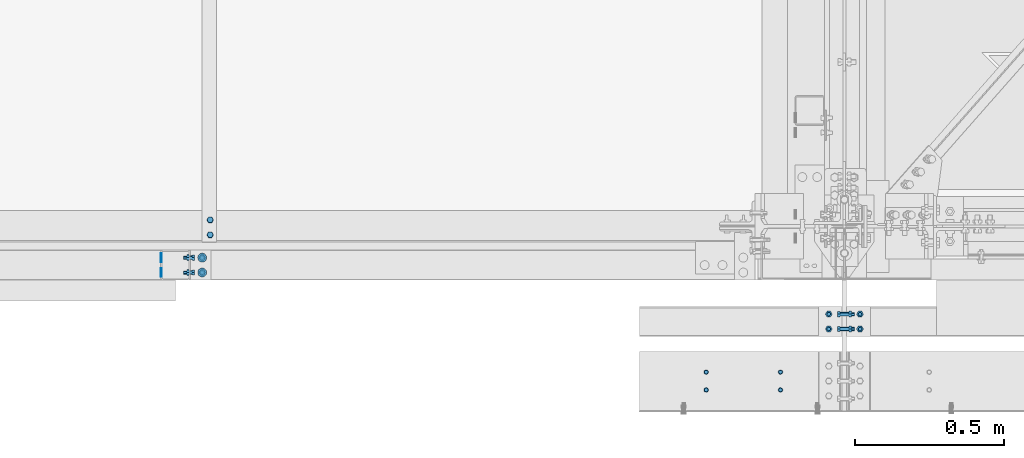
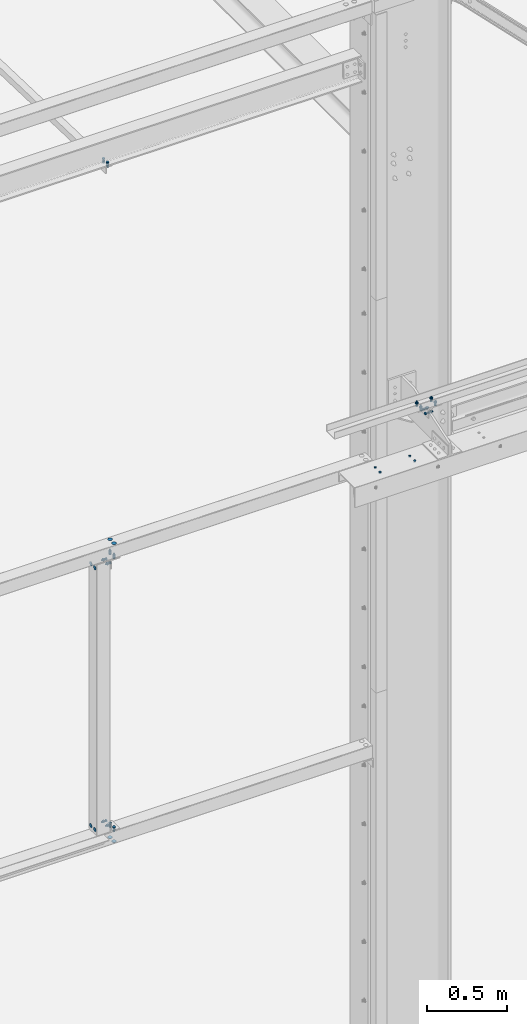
# One storey, part 217 of 362: 14 mechanical fasteners.
"""IFC2X3 building model written with IfcOpenShell, lengths in millimetres."""

from ifc_helpers import new_model, si_unit, frame, origin_with_axes, origin_2d_with_axis, place, context, subcontext, project, spatial, polyline, circle, outline, extrude, source, transform, mapped, material, type_object, element, save


model = new_model("IFC2X3")

# Units and contexts
model_context = context("Model", 3, precision=1e-05, world=origin_with_axes())
body_context = subcontext(model_context, "Body", "Model", "MODEL_VIEW")
ifc_project = project(units=[si_unit("LENGTHUNIT", "METRE", prefix="MILLI"), si_unit("AREAUNIT", "SQUARE_METRE"), si_unit("VOLUMEUNIT", "CUBIC_METRE"), si_unit("MASSUNIT", "GRAM", prefix="KILO"), si_unit("TIMEUNIT", "SECOND"), si_unit("PLANEANGLEUNIT", "RADIAN"), si_unit("SOLIDANGLEUNIT", "STERADIAN"), si_unit("THERMODYNAMICTEMPERATUREUNIT", "DEGREE_CELSIUS"), si_unit("LUMINOUSINTENSITYUNIT", "LUMEN")], contexts=[model_context])

# Site, building, storey
site_placement = place(None, origin_with_axes())
site = spatial("IfcSite", under=ifc_project, at=site_placement, Name="Undefined", CompositionType="ELEMENT")
building_placement = place(site_placement, origin_with_axes())
building = spatial("IfcBuilding", under=site, at=building_placement, Name="Undefined", CompositionType="ELEMENT")
storey_placement = place(building_placement, origin_with_axes())
storey = spatial("IfcBuildingStorey", under=building, at=storey_placement, Name="Undefined", CompositionType="ELEMENT", Elevation=0.0)

# Mechanical fasteners
ifc_material_1 = material(Name="8.8-SB-ZINGUE")
mechanical_fastener_type = type_object("IfcMechanicalFastenerType", Name="Bolt assembly")
shared_shape_1 = source(origin_with_axes(), body_context, "Body", "SweptSolid", [
    extrude(circle(Radius=7.0, at=origin_2d_with_axis()), frame((0.0, -8.5, 0.0), z_axis=(0.0, 1.0, 0.0), x_axis=(1.0, 0.0, 0.0)), (0.0, 0.0, 1.0), 8.6),
])
for number, where, z_axis, x_axis, name in (
    (1, (12464.9989211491, -490.0, 5229.99824538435), (-1.0, 0.0, 0.0), (0.0, -1.0, 0.0), "Bolt assembly"),
    (2, (12214.9989211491, -490.0, 5229.99824538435), (-1.0, 0.0, 0.0), (0.0, -1.0, 0.0), "Bolt assembly"),
):
    element("IfcMechanicalFastener", number, at=place(storey_placement, frame(where, z_axis=z_axis, x_axis=x_axis)), inside=storey, type_object=mechanical_fastener_type, material=ifc_material_1, Name=name, NominalDiameter=12.0, NominalLength=8.5, context=body_context, shape_type="MappedRepresentation", body=[
        mapped(shared_shape_1, transform((0.0, 0.0, 0.0))),
        mapped(shared_shape_1, transform((60.0, 0.0, 0.0))),
    ])
shared_shape_2 = source(origin_with_axes(), body_context, "Body", "SweptSolid", [
    extrude(circle(Radius=7.0, at=origin_2d_with_axis()), frame((0.0, -7.5, 0.0), z_axis=(0.0, 1.0, 0.0), x_axis=(1.0, 0.0, 0.0)), (0.0, 0.0, 1.0), 15.0),
    extrude(circle(Radius=7.0, at=origin_2d_with_axis()), frame((0.0, -15.4, 0.0), z_axis=(0.0, 1.0, 0.0), x_axis=(1.0, 0.0, 0.0)), (0.0, 0.0, 1.0), 8.0),
    extrude(circle(Radius=7.0, at=origin_2d_with_axis()), frame((0.0, 7.39216762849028, 0.0), z_axis=(0.0, 1.0, 0.0), x_axis=(1.0, 0.0, 0.0)), (0.0, 0.0, 1.0), 8.1),
    extrude(outline(polyline([(10.39230484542, 0.0), (5.19615242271, 9.00000000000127), (-5.19615242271, 9.00000000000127), (-10.39230484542, 0.0), (-5.19615242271, -9.00000000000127), (5.19615242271, -9.00000000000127), (10.39230484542, 0.0)])), frame((0.0, -23.42, 0.0), z_axis=(0.0, 1.0, 0.0), x_axis=(1.0, 0.0, 0.0)), (0.0, 0.0, 1.0), 7.92),
    extrude(circle(Radius=6.0, at=origin_2d_with_axis()), frame((0.0, -15.5, 0.0), z_axis=(0.0, 1.0, 0.0), x_axis=(1.0, 0.0, 0.0)), (0.0, 0.0, 1.0), 50.0),
    extrude(outline(polyline([(11.5008173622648, 0.0), (5.7504086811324, 9.96000000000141), (-5.7504086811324, 9.96000000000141), (-11.5008173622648, 0.0), (-5.7504086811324, -9.96000000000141), (5.7504086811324, -9.96000000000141), (11.5008173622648, 0.0)])), frame((0.0, 15.4921676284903, 0.0), z_axis=(0.0, 1.0, 0.0), x_axis=(1.0, 0.0, 0.0)), (0.0, 0.0, 1.0), 7.92),
])
mechanical_fastener_1_placement = place(storey_placement, frame((12680.0, -320.0, 5394.99824538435), z_axis=(0.0, 1.0, 0.0), x_axis=(0.0, 0.0, 1.0)))
element("IfcMechanicalFastener", 3, at=mechanical_fastener_1_placement, inside=storey, type_object=mechanical_fastener_type, material=ifc_material_1, Name="Bolt assembly", NominalDiameter=12.0, NominalLength=50.0, context=body_context, shape_type="MappedRepresentation", body=[
    mapped(shared_shape_2, transform((0.0, 0.0, -25.0))),
    mapped(shared_shape_2, transform((0.0, 0.0, 25.0))),
])
shared_shape_3 = source(origin_with_axes(), body_context, "Body", "SweptSolid", [
    extrude(circle(Radius=7.0, at=origin_2d_with_axis()), frame((0.0, -0.100011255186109, 0.0), z_axis=(0.0, 1.0, 0.0), x_axis=(1.0, 0.0, 0.0)), (0.0, 0.0, 1.0), 4.1),
    extrude(circle(Radius=7.0, at=origin_2d_with_axis()), frame((0.0, -7.9, 0.0), z_axis=(0.0, 1.0, 0.0), x_axis=(1.0, 0.0, 0.0)), (0.0, 0.0, 1.0), 8.0),
    extrude(outline(polyline([(10.39230484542, 0.0), (5.19615242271, 9.00000000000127), (-5.19615242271, 9.00000000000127), (-10.39230484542, 0.0), (-5.19615242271, -9.00000000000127), (5.19615242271, -9.00000000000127), (10.39230484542, 0.0)])), frame((0.0, -15.92, 0.0), z_axis=(0.0, 1.0, 0.0), x_axis=(1.0, 0.0, 0.0)), (0.0, 0.0, 1.0), 7.92),
    extrude(circle(Radius=6.0, at=origin_2d_with_axis()), frame((0.0, -8.0, 0.0), z_axis=(0.0, 1.0, 0.0), x_axis=(1.0, 0.0, 0.0)), (0.0, 0.0, 1.0), 30.0),
    extrude(outline(polyline([(11.5008173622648, 0.0), (5.7504086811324, 9.96000000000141), (-5.7504086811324, 9.96000000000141), (-11.5008173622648, 0.0), (-5.7504086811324, -9.96000000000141), (5.7504086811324, -9.96000000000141), (11.5008173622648, 0.0)])), frame((0.0, 4.00000005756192, 0.0), z_axis=(0.0, 1.0, 0.0), x_axis=(1.0, 0.0, 0.0)), (0.0, 0.0, 1.0), 7.92),
])
for number, where, z_axis, x_axis, name in (
    (4, (12732.4921676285, -320.0, 5449.99824532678), (0.0, 1.0, 0.0), (-1.0, 0.0, 0.0), "Bolt assembly"),
    (5, (12627.5, -320.0, 5449.99824532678), (0.0, -1.0, 0.0), (1.0, 0.0, 0.0), "Bolt assembly"),
):
    element("IfcMechanicalFastener", number, at=place(storey_placement, frame(where, z_axis=z_axis, x_axis=x_axis)), inside=storey, type_object=mechanical_fastener_type, material=ifc_material_1, Name=name, NominalDiameter=12.0, NominalLength=30.0, context=body_context, shape_type="MappedRepresentation", body=[
        mapped(shared_shape_3, transform((0.0, 0.0, -25.0))),
        mapped(shared_shape_3, transform((0.0, 0.0, 25.0))),
    ])
ifc_material_2 = material(Name="6.8")
shared_shape_4 = source(origin_with_axes(), body_context, "Body", "SweptSolid", [
    extrude(circle(Radius=15.0, at=origin_2d_with_axis()), frame((0.0, 0.0, 0.0), z_axis=(0.0, 1.0, 0.0), x_axis=(1.0, 0.0, 0.0)), (0.0, 0.0, 1.0), 4.1),
])
mechanical_fastener_2_placement = place(storey_placement, frame((10379.999999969, -130.000008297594, 4900.0), z_axis=(0.0, 1.0, 0.0), x_axis=(0.0, 0.0, 1.0)))
element("IfcMechanicalFastener", 6, at=mechanical_fastener_2_placement, inside=storey, type_object=mechanical_fastener_type, material=ifc_material_2, Name="Bolt assembly", NominalDiameter=30.0, NominalLength=4.0, context=body_context, shape_type="MappedRepresentation", body=[
    mapped(shared_shape_4, transform((0.0, 0.0, -25.0))),
    mapped(shared_shape_4, transform((0.0, 0.0, 25.0))),
])
mechanical_fastener_3_placement = place(storey_placement, frame((10379.999999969, -130.000008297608, 2900.0), z_axis=(0.0, -1.0, 0.0), x_axis=(0.0, 0.0, -1.0)))
element("IfcMechanicalFastener", 7, at=mechanical_fastener_3_placement, inside=storey, type_object=mechanical_fastener_type, material=ifc_material_2, Name="Bolt assembly", NominalDiameter=30.0, NominalLength=4.0, context=body_context, shape_type="MappedRepresentation", body=[
    mapped(shared_shape_4, transform((0.0, 0.0, 25.0))),
    mapped(shared_shape_4, transform((0.0, 0.0, -25.0))),
])
shared_shape_5 = source(origin_with_axes(), body_context, "Body", "SweptSolid", [
    extrude(circle(Radius=7.0, at=origin_2d_with_axis()), frame((0.0, -0.101674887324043, 0.0), z_axis=(0.0, 1.0, 0.0), x_axis=(1.0, 0.0, 0.0)), (0.0, 0.0, 1.0), 4.1),
    extrude(circle(Radius=7.0, at=origin_2d_with_axis()), frame((0.0, -6.90167467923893, 0.0), z_axis=(0.0, 1.0, 0.0), x_axis=(1.0, 0.0, 0.0)), (0.0, 0.0, 1.0), 7.0),
    extrude(outline(polyline([(10.39230484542, 0.0), (5.19615242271, 9.00000000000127), (-5.19615242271, 9.00000000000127), (-10.39230484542, 0.0), (-5.19615242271, -9.00000000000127), (5.19615242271, -9.00000000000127), (10.39230484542, 0.0)])), frame((0.0, -14.9216746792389, 0.0), z_axis=(0.0, 1.0, 0.0), x_axis=(1.0, 0.0, 0.0)), (0.0, 0.0, 1.0), 7.92),
    extrude(circle(Radius=6.0, at=origin_2d_with_axis()), frame((0.0, -7.00167467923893, 0.0), z_axis=(0.0, 1.0, 0.0), x_axis=(1.0, 0.0, 0.0)), (0.0, 0.0, 1.0), 30.0),
    extrude(outline(polyline([(11.5008173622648, 0.0), (5.7504086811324, 9.96000000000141), (-5.7504086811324, 9.96000000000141), (-11.5008173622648, 0.0), (-5.7504086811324, -9.96000000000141), (5.7504086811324, -9.96000000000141), (11.5008173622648, 0.0)])), frame((0.0, 3.99832511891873, 0.0), z_axis=(0.0, 1.0, 0.0), x_axis=(1.0, 0.0, 0.0)), (0.0, 0.0, 1.0), 7.92),
])
mechanical_fastener_4_placement = place(storey_placement, frame((10479.9983250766, -130.000006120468, 4899.99999995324), z_axis=(0.0, -1.0, 0.0), x_axis=(-5.58310001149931e-05, -3.00000033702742e-09, 0.99999999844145)))
element("IfcMechanicalFastener", 8, at=mechanical_fastener_4_placement, inside=storey, type_object=mechanical_fastener_type, material=ifc_material_1, Name="Bolt assembly", NominalDiameter=12.0, NominalLength=30.0, context=body_context, shape_type="MappedRepresentation", body=[
    mapped(shared_shape_5, transform((0.0, 0.0, -25.0))),
    mapped(shared_shape_5, transform((0.0, 0.0, 25.0))),
])
mechanical_fastener_5_placement = place(storey_placement, frame((10479.9983250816, -130.000006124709, 2900.00000004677), z_axis=(0.0, 1.0, 0.0), x_axis=(-5.58310001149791e-05, -3.00000033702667e-09, -0.99999999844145)))
element("IfcMechanicalFastener", 9, at=mechanical_fastener_5_placement, inside=storey, type_object=mechanical_fastener_type, material=ifc_material_1, Name="Bolt assembly", NominalDiameter=12.0, NominalLength=30.0, context=body_context, shape_type="MappedRepresentation", body=[
    mapped(shared_shape_5, transform((0.0, 0.0, 25.0))),
    mapped(shared_shape_5, transform((0.0, 0.0, -25.0))),
])
shared_shape_6 = source(origin_with_axes(), body_context, "Body", "SweptSolid", [
    extrude(circle(Radius=15.0, at=origin_2d_with_axis()), frame((0.0, -3.99999923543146, 0.0), z_axis=(0.0, 1.0, 0.0), x_axis=(1.0, 0.0, 0.0)), (0.0, 0.0, 1.0), 4.1),
])
mechanical_fastener_6_placement = place(storey_placement, frame((10519.9999995, -130.000008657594, 5040.0), z_axis=(0.0, 1.0, 0.0), x_axis=(-1.0, 0.0, 0.0)))
element("IfcMechanicalFastener", 10, at=mechanical_fastener_6_placement, inside=storey, type_object=mechanical_fastener_type, material=ifc_material_2, Name="Bolt assembly", NominalDiameter=30.0, NominalLength=4.0, context=body_context, shape_type="MappedRepresentation", body=[
    mapped(shared_shape_6, transform((0.0, 0.0, -25.0))),
    mapped(shared_shape_6, transform((0.0, 0.0, 25.0))),
])
mechanical_fastener_7_placement = place(storey_placement, frame((10519.9999995, -130.000008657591, 2760.0), z_axis=(0.0, -1.0, 0.0), x_axis=(-1.0, 0.0, 0.0)))
element("IfcMechanicalFastener", 11, at=mechanical_fastener_7_placement, inside=storey, type_object=mechanical_fastener_type, material=ifc_material_2, Name="Bolt assembly", NominalDiameter=30.0, NominalLength=4.0, context=body_context, shape_type="MappedRepresentation", body=[
    mapped(shared_shape_6, transform((0.0, 0.0, 25.0))),
    mapped(shared_shape_6, transform((0.0, 0.0, -25.0))),
])
shared_shape_7 = source(origin_with_axes(), body_context, "Body", "SweptSolid", [
    extrude(circle(Radius=7.0, at=origin_2d_with_axis()), frame((0.0, -0.100011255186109, 0.0), z_axis=(0.0, 1.0, 0.0), x_axis=(1.0, 0.0, 0.0)), (0.0, 0.0, 1.0), 4.1),
    extrude(circle(Radius=7.0, at=origin_2d_with_axis()), frame((0.0, -6.9, 0.0), z_axis=(0.0, 1.0, 0.0), x_axis=(1.0, 0.0, 0.0)), (0.0, 0.0, 1.0), 7.0),
    extrude(outline(polyline([(10.39230484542, 0.0), (5.19615242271, 9.00000000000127), (-5.19615242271, 9.00000000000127), (-10.39230484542, 0.0), (-5.19615242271, -9.00000000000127), (5.19615242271, -9.00000000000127), (10.39230484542, 0.0)])), frame((0.0, -14.92, 0.0), z_axis=(0.0, 1.0, 0.0), x_axis=(1.0, 0.0, 0.0)), (0.0, 0.0, 1.0), 7.92),
    extrude(circle(Radius=6.0, at=origin_2d_with_axis()), frame((0.0, -7.0, 0.0), z_axis=(0.0, 1.0, 0.0), x_axis=(1.0, 0.0, 0.0)), (0.0, 0.0, 1.0), 30.0),
    extrude(outline(polyline([(11.5008173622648, 0.0), (5.7504086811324, 9.96000000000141), (-5.7504086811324, 9.96000000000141), (-11.5008173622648, 0.0), (-5.7504086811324, -9.96000000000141), (5.7504086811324, -9.96000000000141), (11.5008173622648, 0.0)])), frame((0.0, 4.00000005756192, 0.0), z_axis=(0.0, 1.0, 0.0), x_axis=(1.0, 0.0, 0.0)), (0.0, 0.0, 1.0), 7.92),
])
mechanical_fastener_8_placement = place(storey_placement, frame((10520.0, -130.00000787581, 4940.0), z_axis=(0.0, 1.0, 0.0), x_axis=(-1.0, 0.0, 0.0)))
element("IfcMechanicalFastener", 12, at=mechanical_fastener_8_placement, inside=storey, type_object=mechanical_fastener_type, material=ifc_material_1, Name="Bolt assembly", NominalDiameter=12.0, NominalLength=30.0, context=body_context, shape_type="MappedRepresentation", body=[
    mapped(shared_shape_7, transform((0.0, 0.0, -25.0))),
    mapped(shared_shape_7, transform((0.0, 0.0, 25.0))),
])
mechanical_fastener_9_placement = place(storey_placement, frame((10520.0, -130.000007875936, 2860.0), z_axis=(0.0, -1.0, 0.0), x_axis=(-1.0, 0.0, 0.0)))
element("IfcMechanicalFastener", 13, at=mechanical_fastener_9_placement, inside=storey, type_object=mechanical_fastener_type, material=ifc_material_1, Name="Bolt assembly", NominalDiameter=12.0, NominalLength=30.0, context=body_context, shape_type="MappedRepresentation", body=[
    mapped(shared_shape_7, transform((0.0, 0.0, 25.0))),
    mapped(shared_shape_7, transform((0.0, 0.0, -25.0))),
])
shared_shape_8 = source(origin_with_axes(), body_context, "Body", "SweptSolid", [
    extrude(circle(Radius=7.0, at=origin_2d_with_axis()), frame((0.0, -8.39309251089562, 0.0), z_axis=(0.0, 1.0, 0.0), x_axis=(1.0, 0.0, 0.0)), (0.0, 0.0, 1.0), 8.5),
    extrude(circle(Radius=7.0, at=origin_2d_with_axis()), frame((0.0, -0.100011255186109, 0.0), z_axis=(0.0, 1.0, 0.0), x_axis=(1.0, 0.0, 0.0)), (0.0, 0.0, 1.0), 5.1),
    extrude(outline(polyline([(10.39230484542, 0.0), (5.19615242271, 9.00000000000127), (-5.19615242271, 9.00000000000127), (-10.39230484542, 0.0), (-5.19615242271, -9.00000000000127), (5.19615242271, -9.00000000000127), (10.39230484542, 0.0)])), frame((0.0, -16.4130925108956, 0.0), z_axis=(0.0, 1.0, 0.0), x_axis=(1.0, 0.0, 0.0)), (0.0, 0.0, 1.0), 7.92),
    extrude(circle(Radius=6.0, at=origin_2d_with_axis()), frame((0.0, -8.49309251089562, 0.0), z_axis=(0.0, 1.0, 0.0), x_axis=(1.0, 0.0, 0.0)), (0.0, 0.0, 1.0), 30.0),
    extrude(outline(polyline([(11.5008173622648, 0.0), (5.7504086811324, 9.96000000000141), (-5.7504086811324, 9.96000000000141), (-11.5008173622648, 0.0), (-5.7504086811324, -9.96000000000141), (5.7504086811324, -9.96000000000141), (11.5008173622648, 0.0)])), frame((0.0, 5.0, 0.0), z_axis=(0.0, 1.0, 0.0), x_axis=(1.0, 0.0, 0.0)), (0.0, 0.0, 1.0), 7.92),
])
mechanical_fastener_10_placement = place(storey_placement, frame((10546.7500126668, -3.14090510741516, 7850.00687397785), z_axis=(0.0, -0.999506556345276, 0.031410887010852), x_axis=(-1.0, 0.0, 0.0)))
element("IfcMechanicalFastener", 14, at=mechanical_fastener_10_placement, inside=storey, type_object=mechanical_fastener_type, material=ifc_material_1, Name="Bolt assembly", NominalDiameter=12.0, NominalLength=30.0, context=body_context, shape_type="MappedRepresentation", body=[
    mapped(shared_shape_8, transform((0.0, 0.0, -25.0))),
    mapped(shared_shape_8, transform((0.0, 0.0, 25.0))),
])

save(model, "model.ifc")
